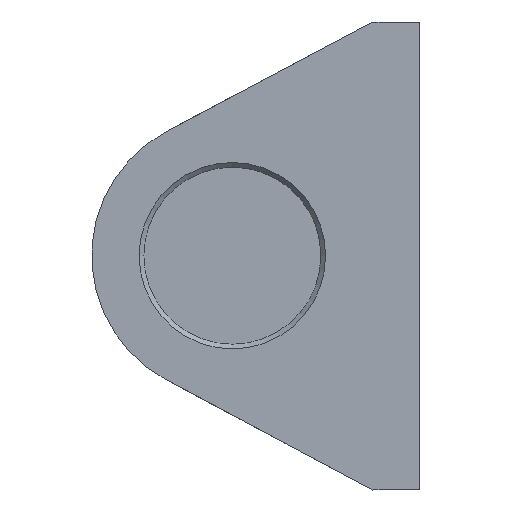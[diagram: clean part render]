
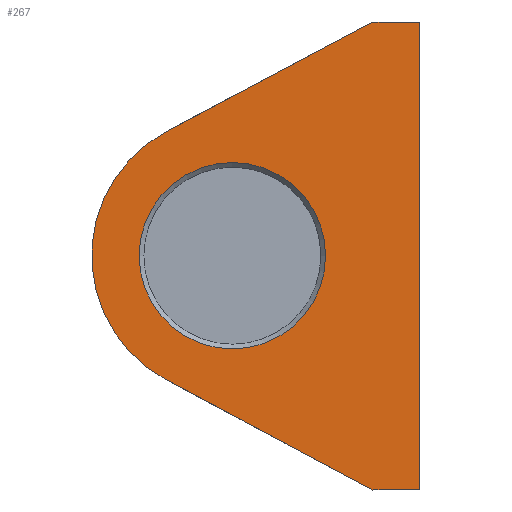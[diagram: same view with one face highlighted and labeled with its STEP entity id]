
A CAD part, left-side view. The second image highlights one B-rep face of the part: STEP entity #267.
In plain terms, the highlighted planar face has unit normal (-1, 0, 0).
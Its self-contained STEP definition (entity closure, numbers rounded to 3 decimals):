
#17=FACE_BOUND('',#60,.T.);
#24=PLANE('',#301);
#42=FACE_OUTER_BOUND('',#59,.T.);
#59=EDGE_LOOP('',(#202,#203,#204,#205,#206,#207));
#60=EDGE_LOOP('',(#208));
#83=LINE('',#424,#105);
#84=LINE('',#426,#106);
#85=LINE('',#428,#107);
#86=LINE('',#432,#108);
#87=LINE('',#433,#109);
#105=VECTOR('',#342,10.);
#106=VECTOR('',#343,10.);
#107=VECTOR('',#344,10.);
#108=VECTOR('',#347,10.);
#109=VECTOR('',#348,10.);
#125=CIRCLE('',#297,9.95);
#128=CIRCLE('',#302,15.);
#136=VERTEX_POINT('',#412);
#139=VERTEX_POINT('',#422);
#140=VERTEX_POINT('',#423);
#141=VERTEX_POINT('',#425);
#142=VERTEX_POINT('',#427);
#143=VERTEX_POINT('',#429);
#144=VERTEX_POINT('',#431);
#159=EDGE_CURVE('',#136,#136,#125,.T.);
#164=EDGE_CURVE('',#139,#140,#83,.T.);
#165=EDGE_CURVE('',#141,#139,#84,.T.);
#166=EDGE_CURVE('',#142,#141,#85,.T.);
#167=EDGE_CURVE('',#142,#143,#128,.T.);
#168=EDGE_CURVE('',#144,#143,#86,.T.);
#169=EDGE_CURVE('',#140,#144,#87,.T.);
#202=ORIENTED_EDGE('',*,*,#164,.F.);
#203=ORIENTED_EDGE('',*,*,#165,.F.);
#204=ORIENTED_EDGE('',*,*,#166,.F.);
#205=ORIENTED_EDGE('',*,*,#167,.T.);
#206=ORIENTED_EDGE('',*,*,#168,.F.);
#207=ORIENTED_EDGE('',*,*,#169,.F.);
#208=ORIENTED_EDGE('',*,*,#159,.F.);
#267=ADVANCED_FACE('',(#42,#17),#24,.F.);
#297=AXIS2_PLACEMENT_3D('',#413,#330,#331);
#301=AXIS2_PLACEMENT_3D('',#421,#340,#341);
#302=AXIS2_PLACEMENT_3D('',#430,#345,#346);
#330=DIRECTION('center_axis',(-1.,0.,0.));
#331=DIRECTION('ref_axis',(0.,-1.,0.));
#340=DIRECTION('center_axis',(1.,0.,0.));
#341=DIRECTION('ref_axis',(0.,0.,-1.));
#342=DIRECTION('',(0.,0.,-1.));
#343=DIRECTION('',(0.,-1.,0.));
#344=DIRECTION('',(0.,-0.883,0.469));
#345=DIRECTION('center_axis',(-1.,0.,0.));
#346=DIRECTION('ref_axis',(0.,0.471,-0.882));
#347=DIRECTION('',(0.,0.882,0.471));
#348=DIRECTION('',(0.,1.,0.));
#412=CARTESIAN_POINT('',(33.5,19.95,10.));
#413=CARTESIAN_POINT('Origin',(33.5,10.,10.));
#421=CARTESIAN_POINT('Origin',(33.5,13.082,10.003));
#422=CARTESIAN_POINT('',(33.5,-10.,34.943));
#423=CARTESIAN_POINT('',(33.5,-10.,-15.));
#424=CARTESIAN_POINT('',(33.5,-10.,9.987));
#425=CARTESIAN_POINT('',(33.5,-5.,34.943));
#426=CARTESIAN_POINT('',(33.5,2.791,34.943));
#427=CARTESIAN_POINT('',(33.5,17.032,23.25));
#428=CARTESIAN_POINT('',(33.5,12.866,25.461));
#429=CARTESIAN_POINT('',(33.5,17.059,-3.235));
#430=CARTESIAN_POINT('Origin',(33.5,10.,10.));
#431=CARTESIAN_POINT('',(33.5,-5.,-15.));
#432=CARTESIAN_POINT('',(33.5,12.851,-5.479));
#433=CARTESIAN_POINT('',(33.5,2.791,-15.));
